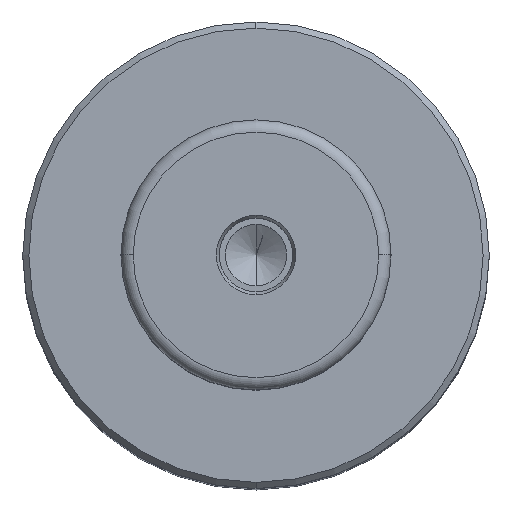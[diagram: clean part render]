
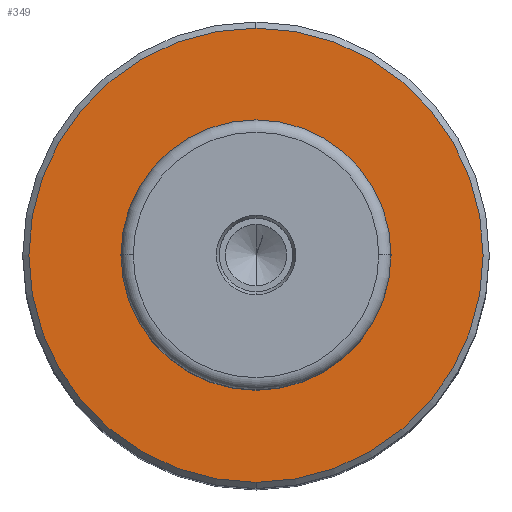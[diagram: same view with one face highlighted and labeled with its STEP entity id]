
A CAD part, top view. The second image highlights one B-rep face of the part: STEP entity #349.
In plain terms, the highlighted planar face has unit normal (0, 0, 1).
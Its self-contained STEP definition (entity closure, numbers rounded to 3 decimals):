
#252 = VERTEX_POINT('',#253);
#253 = CARTESIAN_POINT('',(0.,18.5,69.));
#259 = EDGE_CURVE('',#260,#252,#262,.T.);
#260 = VERTEX_POINT('',#261);
#261 = CARTESIAN_POINT('',(0.,-18.5,69.));
#262 = CIRCLE('',#263,18.5);
#263 = AXIS2_PLACEMENT_3D('',#264,#265,#266);
#264 = CARTESIAN_POINT('',(0.,0.,69.));
#265 = DIRECTION('',(0.,0.,1.));
#266 = DIRECTION('',(0.,1.,0.));
#286 = EDGE_CURVE('',#252,#260,#287,.T.);
#287 = CIRCLE('',#288,18.5);
#288 = AXIS2_PLACEMENT_3D('',#289,#290,#291);
#289 = CARTESIAN_POINT('',(0.,0.,69.));
#290 = DIRECTION('',(0.,0.,1.));
#291 = DIRECTION('',(0.,1.,0.));
#349 = ADVANCED_FACE('',(#350,#370),#374,.T.);
#350 = FACE_BOUND('',#351,.T.);
#351 = EDGE_LOOP('',(#352,#363));
#352 = ORIENTED_EDGE('',*,*,#353,.F.);
#353 = EDGE_CURVE('',#354,#356,#358,.T.);
#354 = VERTEX_POINT('',#355);
#355 = CARTESIAN_POINT('',(0.,11.,69.));
#356 = VERTEX_POINT('',#357);
#357 = CARTESIAN_POINT('',(0.,-11.,69.));
#358 = CIRCLE('',#359,11.);
#359 = AXIS2_PLACEMENT_3D('',#360,#361,#362);
#360 = CARTESIAN_POINT('',(0.,0.,69.));
#361 = DIRECTION('',(0.,0.,1.));
#362 = DIRECTION('',(0.,1.,0.));
#363 = ORIENTED_EDGE('',*,*,#364,.F.);
#364 = EDGE_CURVE('',#356,#354,#365,.T.);
#365 = CIRCLE('',#366,11.);
#366 = AXIS2_PLACEMENT_3D('',#367,#368,#369);
#367 = CARTESIAN_POINT('',(0.,0.,69.));
#368 = DIRECTION('',(0.,0.,1.));
#369 = DIRECTION('',(0.,1.,0.));
#370 = FACE_BOUND('',#371,.T.);
#371 = EDGE_LOOP('',(#372,#373));
#372 = ORIENTED_EDGE('',*,*,#286,.T.);
#373 = ORIENTED_EDGE('',*,*,#259,.T.);
#374 = PLANE('',#375);
#375 = AXIS2_PLACEMENT_3D('',#376,#377,#378);
#376 = CARTESIAN_POINT('',(0.,14.75,69.));
#377 = DIRECTION('',(0.,0.,1.));
#378 = DIRECTION('',(0.,1.,0.));
